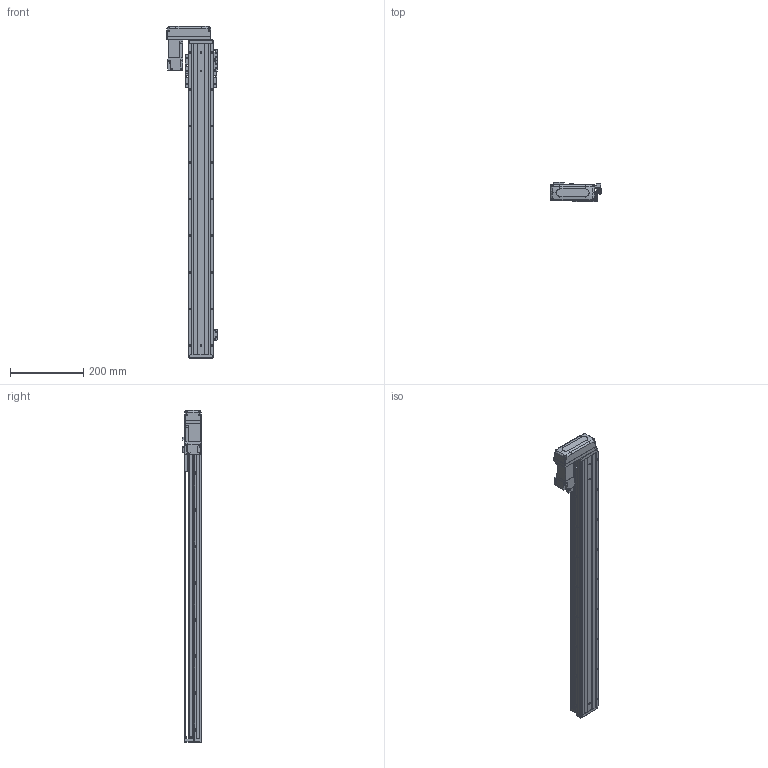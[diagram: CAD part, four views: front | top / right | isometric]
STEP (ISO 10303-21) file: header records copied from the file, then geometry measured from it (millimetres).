
FILE_DESCRIPTION (( 'STEP AP203' ), '1' );
FILE_NAME ('KTHAL60-700-BR-M10-C4L.step', '2022-03-19T08:45:26', ( '微软用户' ), ( '微软中国' ), 'SwSTEP 2.0', 'SolidWorks 2020', '' );
FILE_SCHEMA (( 'CONFIG_CONTROL_DESIGN' ));
Length unit declared in the file: millimetre
Products named in the file (18): GB¨uT 70.2-M3¡Á5_M3¡Á6; GBT 70.1-M3℅6; GBT 70.3-M3℅6; CTHA60-016; EE_SX911P_R; HG-KR13（三菱）; KTHA60-001_850; CTHA60-017; CTHA60-015-2_CTHA60-015-2; KTHLA60-002; CTHA60-021; CTHA60-033; KTHA60-004; GBT 70.1-M4×16; GBT 70.1-M3×15; KTHA60-005; GBT77-2000M3-3; KTHAL60-700-BR-M10-C4L
Assembly tree (51 placements, depth 2):
  KTHAL60-700-BR-M10-C4L
    KTHA60-001_850
    KTHLA60-002
    KTHA60-004
    KTHA60-005
    GB¨uT 70.2-M3¡Á5_M3¡Á6  x5
    GBT 70.3-M3℅6  x4
    EE_SX911P_R  x3
    CTHA60-017  x3
    CTHA60-021  x2
    GBT 70.1-M4×16  x10
    GBT77-2000M3-3  x6
    GBT 70.1-M3℅6  x6
    CTHA60-016
    HG-KR13（三菱）
    CTHA60-015-2_CTHA60-015-2
    CTHA60-033
    GBT 70.1-M3×15  x4
Bounding box: 137.82 x 52.3 x 907 mm (x, y, z)
Volume: 1862319.8 mm3; surface area: 460348.7 mm2
Topology: 54 solids, 54 shells, 2335 faces, 5555 edges, 3413 vertices
Faces by surface type: plane 1336, cylinder 571, cone 290, torus 98, bspline 26, sphere 14
Entity records: 41285 total; most frequent: CARTESIAN_POINT 7784, DIRECTION 6463, ORIENTED_EDGE 6254, EDGE_CURVE 3127, AXIS2_PLACEMENT_3D 2159, VECTOR 2145, LINE 2145, VERTEX_POINT 1962
